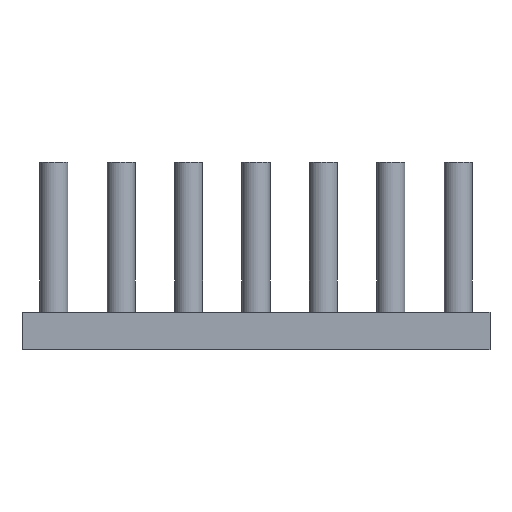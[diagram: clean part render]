
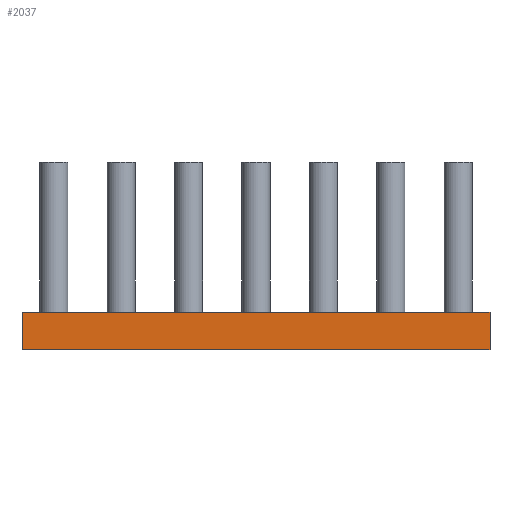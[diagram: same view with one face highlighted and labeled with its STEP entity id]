
A CAD part, front view. The second image highlights one B-rep face of the part: STEP entity #2037.
In plain terms, the highlighted planar face has unit normal (0, -1, 0).
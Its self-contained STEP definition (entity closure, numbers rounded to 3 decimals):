
#76 = LINE ( 'NONE', #3452, #2512 ) ;
#166 = CARTESIAN_POINT ( 'NONE',  ( -1.7, -1.7, 0. ) ) ;
#287 = VERTEX_POINT ( 'NONE', #4046 ) ;
#387 = ORIENTED_EDGE ( 'NONE', *, *, #2811, .T. ) ;
#683 = EDGE_CURVE ( 'NONE', #2797, #3180, #1386, .T. ) ;
#685 = VECTOR ( 'NONE', #3556, 1000. ) ;
#738 = VECTOR ( 'NONE', #3824, 1000. ) ;
#746 = AXIS2_PLACEMENT_3D ( 'NONE', #2770, #3412, #1501 ) ;
#866 = CARTESIAN_POINT ( 'NONE',  ( -1.7, -1.7, -2. ) ) ;
#954 = CARTESIAN_POINT ( 'NONE',  ( -1.7, -1.7, 0. ) ) ;
#1365 = VERTEX_POINT ( 'NONE', #866 ) ;
#1386 = LINE ( 'NONE', #954, #738 ) ;
#1488 = PLANE ( 'NONE',  #746 ) ;
#1501 = DIRECTION ( 'NONE',  ( 0., 0., -1. ) ) ;
#1538 = LINE ( 'NONE', #3860, #685 ) ;
#1550 = CARTESIAN_POINT ( 'NONE',  ( 23.3, -1.7, 0. ) ) ;
#1740 = CARTESIAN_POINT ( 'NONE',  ( -1.7, -1.7, -2. ) ) ;
#1868 = ORIENTED_EDGE ( 'NONE', *, *, #4090, .F. ) ;
#1961 = FACE_OUTER_BOUND ( 'NONE', #3572, .T. ) ;
#2037 = ADVANCED_FACE ( 'NONE', ( #1961 ), #1488, .T. ) ;
#2115 = EDGE_CURVE ( 'NONE', #287, #3180, #76, .T. ) ;
#2512 = VECTOR ( 'NONE', #3778, 1000. ) ;
#2710 = DIRECTION ( 'NONE',  ( 1., 0., 0. ) ) ;
#2766 = VECTOR ( 'NONE', #2710, 1000. ) ;
#2770 = CARTESIAN_POINT ( 'NONE',  ( -1.7, -1.7, -2. ) ) ;
#2797 = VERTEX_POINT ( 'NONE', #166 ) ;
#2811 = EDGE_CURVE ( 'NONE', #1365, #287, #3607, .T. ) ;
#3050 = ORIENTED_EDGE ( 'NONE', *, *, #2115, .T. ) ;
#3180 = VERTEX_POINT ( 'NONE', #1550 ) ;
#3412 = DIRECTION ( 'NONE',  ( 0., -1., 0. ) ) ;
#3452 = CARTESIAN_POINT ( 'NONE',  ( 23.3, -1.7, -2. ) ) ;
#3555 = ORIENTED_EDGE ( 'NONE', *, *, #683, .F. ) ;
#3556 = DIRECTION ( 'NONE',  ( 0., 0., 1. ) ) ;
#3572 = EDGE_LOOP ( 'NONE', ( #3555, #1868, #387, #3050 ) ) ;
#3607 = LINE ( 'NONE', #1740, #2766 ) ;
#3778 = DIRECTION ( 'NONE',  ( 0., 0., 1. ) ) ;
#3824 = DIRECTION ( 'NONE',  ( 1., 0., 0. ) ) ;
#3860 = CARTESIAN_POINT ( 'NONE',  ( -1.7, -1.7, -2. ) ) ;
#4046 = CARTESIAN_POINT ( 'NONE',  ( 23.3, -1.7, -2. ) ) ;
#4090 = EDGE_CURVE ( 'NONE', #1365, #2797, #1538, .T. ) ;
